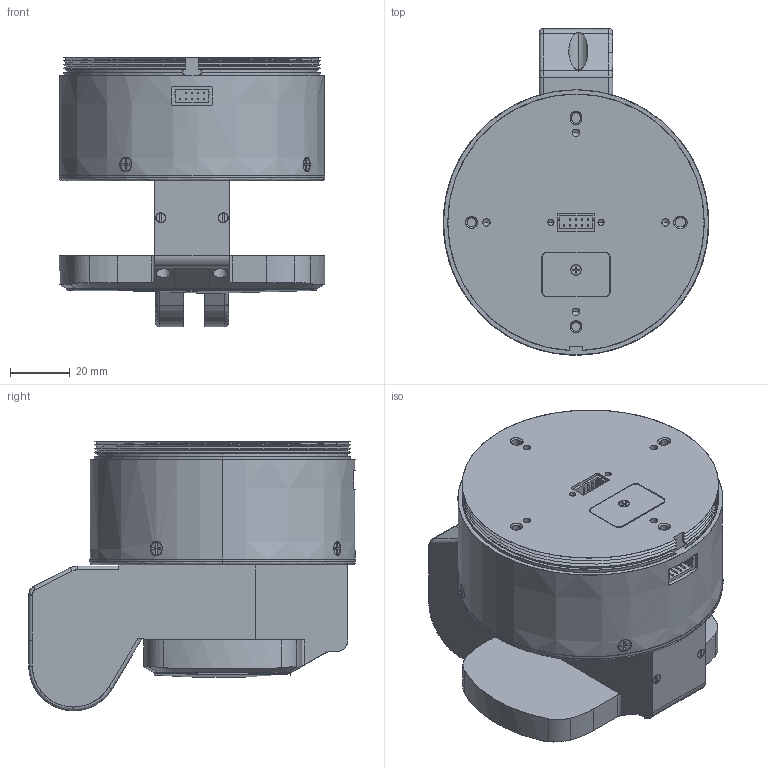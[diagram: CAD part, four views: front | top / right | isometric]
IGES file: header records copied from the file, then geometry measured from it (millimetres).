
Start section: SolidWorks IGES file using analytic representation for surfaces
Global section: file name: B4157.IGS; native system: SolidWorks 2010; preprocessor: SolidWorks 2010; author: dw; date: 101019.110913; units: millimetre
Bounding box: 89 x 109.5 x 90.4 mm (x, y, z)
Surface area: 48587.1 mm2 (no closed solid volume)
Topology: 0 solids, 0 shells, 705 faces, 7309 edges, 7295 vertices
Faces by surface type: bspline 427, revolution 278
